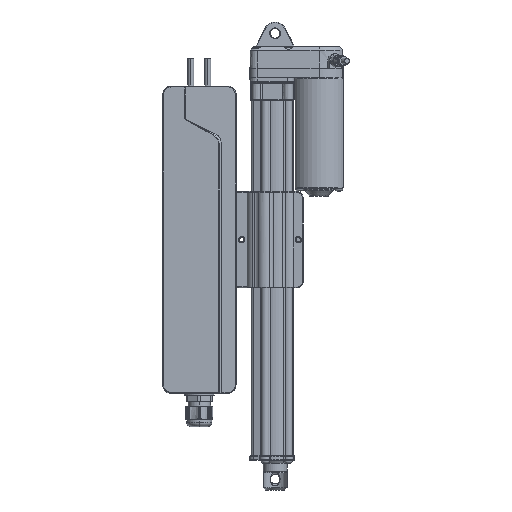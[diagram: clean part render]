
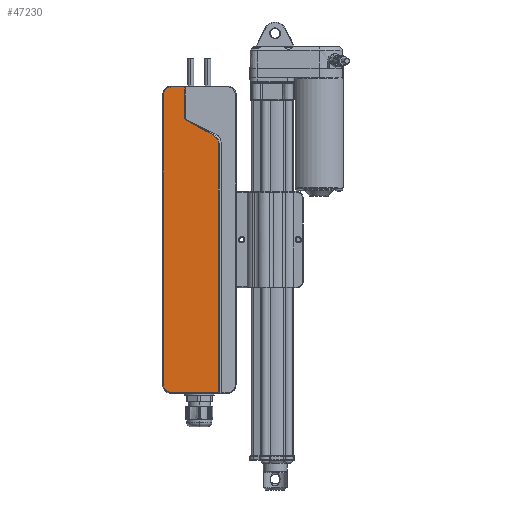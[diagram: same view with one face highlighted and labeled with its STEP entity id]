
A CAD part, front view. The second image highlights one B-rep face of the part: STEP entity #47230.
In plain terms, the highlighted planar face has unit normal (0, -1, 0) as drawn and (0, 1, 0) by its records, which use the part's own axes.
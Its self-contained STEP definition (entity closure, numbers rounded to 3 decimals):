
#214 = ORIENTED_EDGE ( 'NONE', *, *, #57731, .T. ) ;
#4359 = LINE ( 'NONE', #38555, #83133 ) ;
#4757 = AXIS2_PLACEMENT_3D ( 'NONE', #67146, #36280, #73718 ) ;
#4993 = CARTESIAN_POINT ( 'NONE',  ( 11.977, 8., 100.088 ) ) ;
#9869 = ORIENTED_EDGE ( 'NONE', *, *, #35801, .T. ) ;
#11321 = ORIENTED_EDGE ( 'NONE', *, *, #45430, .T. ) ;
#11418 = CARTESIAN_POINT ( 'NONE',  ( -11.516, 8., 86.811 ) ) ;
#13024 = EDGE_CURVE ( 'NONE', #109620, #80566, #40129, .T. ) ;
#15409 = CARTESIAN_POINT ( 'NONE',  ( 27.048, 8., -126.738 ) ) ;
#15505 = ORIENTED_EDGE ( 'NONE', *, *, #67249, .T. ) ;
#15564 = VERTEX_POINT ( 'NONE', #30444 ) ;
#16168 = CARTESIAN_POINT ( 'NONE',  ( 29.738, 8., -120.242 ) ) ;
#17207 = CARTESIAN_POINT ( 'NONE',  ( -16.335, 8., -126.738 ) ) ;
#17214 = CARTESIAN_POINT ( 'NONE',  ( 11.842, 8., 99.967 ) ) ;
#18623 = PLANE ( 'NONE',  #4757 ) ;
#19405 = CARTESIAN_POINT ( 'NONE',  ( 12.236, 8., 126.738 ) ) ;
#19558 = ORIENTED_EDGE ( 'NONE', *, *, #76038, .T. ) ;
#20476 = CARTESIAN_POINT ( 'NONE',  ( -14.882, 8., 83.782 ) ) ;
#21584 = DIRECTION ( 'NONE',  ( 0., 0., 1. ) ) ;
#22662 = VERTEX_POINT ( 'NONE', #108217 ) ;
#23040 = CARTESIAN_POINT ( 'NONE',  ( 12.236, 8., 100.339 ) ) ;
#23070 = VERTEX_POINT ( 'NONE', #19405 ) ;
#23109 = EDGE_LOOP ( 'NONE', ( #15505, #9869, #19558, #71670, #11321, #50461, #108415, #102582, #84128, #39398, #214 ) ) ;
#23349 = VECTOR ( 'NONE', #70405, 1000. ) ;
#23947 = CARTESIAN_POINT ( 'NONE',  ( 23.242, 8., -126.738 ) ) ;
#25011 = VECTOR ( 'NONE', #108299, 1000. ) ;
#25260 = LINE ( 'NONE', #17207, #23349 ) ;
#25875 = CARTESIAN_POINT ( 'NONE',  ( 7.343, 8., 97.221 ) ) ;
#26673 = B_SPLINE_CURVE_WITH_KNOTS ( 'NONE', 3,
 ( #41915, #4993, #95804, #23040 ),
 .UNSPECIFIED., .F., .F.,
 ( 4, 4 ),
 ( 0., 0.001 ),
 .UNSPECIFIED. ) ;
#29101 = CARTESIAN_POINT ( 'NONE',  ( -15.303, 8., 83.071 ) ) ;
#30266 = CARTESIAN_POINT ( 'NONE',  ( -13.837, 8., 85.075 ) ) ;
#30444 = CARTESIAN_POINT ( 'NONE',  ( 12.236, 8., 100.339 ) ) ;
#33739 = CARTESIAN_POINT ( 'NONE',  ( -16.335, 8., 78.649 ) ) ;
#33874 = CARTESIAN_POINT ( 'NONE',  ( 23.242, 8., -126.738 ) ) ;
#34592 = VECTOR ( 'NONE', #21584, 1000. ) ;
#34902 = CARTESIAN_POINT ( 'NONE',  ( 11.346, 8., 99.52 ) ) ;
#35801 = EDGE_CURVE ( 'NONE', #49724, #22662, #25260, .T. ) ;
#36280 = DIRECTION ( 'NONE',  ( 0., 1., 0. ) ) ;
#38555 = CARTESIAN_POINT ( 'NONE',  ( 12.236, 8., 127.221 ) ) ;
#39398 = ORIENTED_EDGE ( 'NONE', *, *, #13024, .T. ) ;
#40129 =( BOUNDED_CURVE ( )  B_SPLINE_CURVE ( 3, ( #70884, #52764, #115611, #88919 ),
 .UNSPECIFIED., .F., .T. ) 
 B_SPLINE_CURVE_WITH_KNOTS ( ( 4, 4 ),
 ( 2.357, 3.926 ),
 .UNSPECIFIED. ) 
 CURVE ( )  GEOMETRIC_REPRESENTATION_ITEM ( )  RATIONAL_B_SPLINE_CURVE ( ( 1., 0.805, 0.805, 1. ) ) 
 REPRESENTATION_ITEM ( '' )  );
#41915 = CARTESIAN_POINT ( 'NONE',  ( 11.842, 8., 99.967 ) ) ;
#43010 = VERTEX_POINT ( 'NONE', #77957 ) ;
#44998 = CARTESIAN_POINT ( 'NONE',  ( 12.324, 8., 99.971 ) ) ;
#45430 = EDGE_CURVE ( 'NONE', #43010, #105555, #84177, .T. ) ;
#47230 = ADVANCED_FACE ( 'NONE', ( #106652 ), #18623, .T. ) ;
#47597 = CARTESIAN_POINT ( 'NONE',  ( -16.335, 8., 79.068 ) ) ;
#47891 = DIRECTION ( 'NONE',  ( 0., 0., -1. ) ) ;
#48347 = CARTESIAN_POINT ( 'NONE',  ( -16.335, 8., 78.567 ) ) ;
#48397 = CARTESIAN_POINT ( 'NONE',  ( -16.312, 8., 79.488 ) ) ;
#49724 = VERTEX_POINT ( 'NONE', #23947 ) ;
#50461 = ORIENTED_EDGE ( 'NONE', *, *, #106776, .T. ) ;
#52764 = CARTESIAN_POINT ( 'NONE',  ( 27.048, 8., 126.738 ) ) ;
#52959 = LINE ( 'NONE', #48347, #34592 ) ;
#53278 = DIRECTION ( 'NONE',  ( 1., 0., 0. ) ) ;
#53452 = EDGE_CURVE ( 'NONE', #58334, #15564, #26673, .T. ) ;
#53466 = CARTESIAN_POINT ( 'NONE',  ( 9.808, 8., 98.582 ) ) ;
#57731 = EDGE_CURVE ( 'NONE', #80566, #98188, #66628, .T. ) ;
#58334 = VERTEX_POINT ( 'NONE', #95924 ) ;
#62976 = LINE ( 'NONE', #115735, #89661 ) ;
#63672 = VERTEX_POINT ( 'NONE', #33739 ) ;
#65341 = B_SPLINE_CURVE_WITH_KNOTS ( 'NONE', 3,
 ( #65781, #47597, #48397, #110529, #92806, #101074, #74050, #83017, #29101, #20476, #92062, #110909, #30266, #65396, #93200, #11418 ),
 .UNSPECIFIED., .F., .F.,
 ( 4, 2, 2, 2, 2, 2, 2, 4 ),
 ( 0., 0.001, 0.003, 0.004, 0.005, 0.006, 0.008, 0.01 ),
 .UNSPECIFIED. ) ;
#65396 = CARTESIAN_POINT ( 'NONE',  ( -12.925, 8., 85.927 ) ) ;
#65781 = CARTESIAN_POINT ( 'NONE',  ( -16.335, 8., 78.649 ) ) ;
#66076 = CARTESIAN_POINT ( 'NONE',  ( 23.242, 8., 126.738 ) ) ;
#66628 = LINE ( 'NONE', #93476, #114354 ) ;
#67146 = CARTESIAN_POINT ( 'NONE',  ( 0., 8., 0. ) ) ;
#67249 = EDGE_CURVE ( 'NONE', #98188, #49724, #106071, .T. ) ;
#70405 = DIRECTION ( 'NONE',  ( -1., 0., 0. ) ) ;
#70884 = CARTESIAN_POINT ( 'NONE',  ( 23.242, 8., 126.738 ) ) ;
#71207 = CARTESIAN_POINT ( 'NONE',  ( 29.738, 8., 120.242 ) ) ;
#71670 = ORIENTED_EDGE ( 'NONE', *, *, #94212, .T. ) ;
#73718 = DIRECTION ( 'NONE',  ( 0., 0., 1. ) ) ;
#74050 = CARTESIAN_POINT ( 'NONE',  ( -15.806, 8., 81.922 ) ) ;
#76038 = EDGE_CURVE ( 'NONE', #22662, #63672, #52959, .T. ) ;
#77957 = CARTESIAN_POINT ( 'NONE',  ( -11.516, 8., 86.811 ) ) ;
#80566 = VERTEX_POINT ( 'NONE', #71207 ) ;
#83017 = CARTESIAN_POINT ( 'NONE',  ( -15.488, 8., 82.699 ) ) ;
#83133 = VECTOR ( 'NONE', #93603, 1000. ) ;
#84128 = ORIENTED_EDGE ( 'NONE', *, *, #112078, .T. ) ;
#84177 = LINE ( 'NONE', #44998, #25011 ) ;
#88919 = CARTESIAN_POINT ( 'NONE',  ( 29.738, 8., 120.242 ) ) ;
#89661 = VECTOR ( 'NONE', #53278, 1000. ) ;
#90325 =( BOUNDED_CURVE ( )  B_SPLINE_CURVE ( 3, ( #25875, #53466, #34902, #17214 ),
 .UNSPECIFIED., .F., .F. ) 
 B_SPLINE_CURVE_WITH_KNOTS ( ( 4, 4 ),
 ( 5.585, 6.136 ),
 .UNSPECIFIED. ) 
 CURVE ( )  GEOMETRIC_REPRESENTATION_ITEM ( )  RATIONAL_B_SPLINE_CURVE ( ( 1., 0.975, 0.975, 1. ) ) 
 REPRESENTATION_ITEM ( '' )  );
#90872 = EDGE_CURVE ( 'NONE', #15564, #23070, #4359, .T. ) ;
#92062 = CARTESIAN_POINT ( 'NONE',  ( -14.647, 8., 84.121 ) ) ;
#92806 = CARTESIAN_POINT ( 'NONE',  ( -16.139, 8., 80.724 ) ) ;
#93200 = CARTESIAN_POINT ( 'NONE',  ( -12.249, 8., 86.406 ) ) ;
#93476 = CARTESIAN_POINT ( 'NONE',  ( 29.738, 8., -120.225 ) ) ;
#93603 = DIRECTION ( 'NONE',  ( 0., 0., 1. ) ) ;
#94212 = EDGE_CURVE ( 'NONE', #63672, #43010, #65341, .T. ) ;
#95804 = CARTESIAN_POINT ( 'NONE',  ( 12.108, 8., 100.212 ) ) ;
#95924 = CARTESIAN_POINT ( 'NONE',  ( 11.842, 8., 99.967 ) ) ;
#97714 = CARTESIAN_POINT ( 'NONE',  ( 7.343, 8., 97.221 ) ) ;
#98188 = VERTEX_POINT ( 'NONE', #16168 ) ;
#101074 = CARTESIAN_POINT ( 'NONE',  ( -15.935, 8., 81.527 ) ) ;
#102582 = ORIENTED_EDGE ( 'NONE', *, *, #90872, .T. ) ;
#104676 = CARTESIAN_POINT ( 'NONE',  ( 29.738, 8., -120.242 ) ) ;
#105555 = VERTEX_POINT ( 'NONE', #97714 ) ;
#106071 =( BOUNDED_CURVE ( )  B_SPLINE_CURVE ( 3, ( #104676, #106238, #15409, #33874 ),
 .UNSPECIFIED., .F., .F. ) 
 B_SPLINE_CURVE_WITH_KNOTS ( ( 4, 4 ),
 ( 2.357, 3.926 ),
 .UNSPECIFIED. ) 
 CURVE ( )  GEOMETRIC_REPRESENTATION_ITEM ( )  RATIONAL_B_SPLINE_CURVE ( ( 1., 0.805, 0.805, 1. ) ) 
 REPRESENTATION_ITEM ( '' )  );
#106238 = CARTESIAN_POINT ( 'NONE',  ( 29.738, 8., -124.048 ) ) ;
#106652 = FACE_OUTER_BOUND ( 'NONE', #23109, .T. ) ;
#106776 = EDGE_CURVE ( 'NONE', #105555, #58334, #90325, .T. ) ;
#108217 = CARTESIAN_POINT ( 'NONE',  ( -16.335, 8., -126.738 ) ) ;
#108299 = DIRECTION ( 'NONE',  ( 0.875, 0., 0.483 ) ) ;
#108415 = ORIENTED_EDGE ( 'NONE', *, *, #53452, .T. ) ;
#109620 = VERTEX_POINT ( 'NONE', #66076 ) ;
#110529 = CARTESIAN_POINT ( 'NONE',  ( -16.213, 8., 80.316 ) ) ;
#110909 = CARTESIAN_POINT ( 'NONE',  ( -14.125, 8., 84.767 ) ) ;
#112078 = EDGE_CURVE ( 'NONE', #23070, #109620, #62976, .T. ) ;
#114354 = VECTOR ( 'NONE', #47891, 1000. ) ;
#115611 = CARTESIAN_POINT ( 'NONE',  ( 29.738, 8., 124.048 ) ) ;
#115735 = CARTESIAN_POINT ( 'NONE',  ( 23.225, 8., 126.738 ) ) ;
